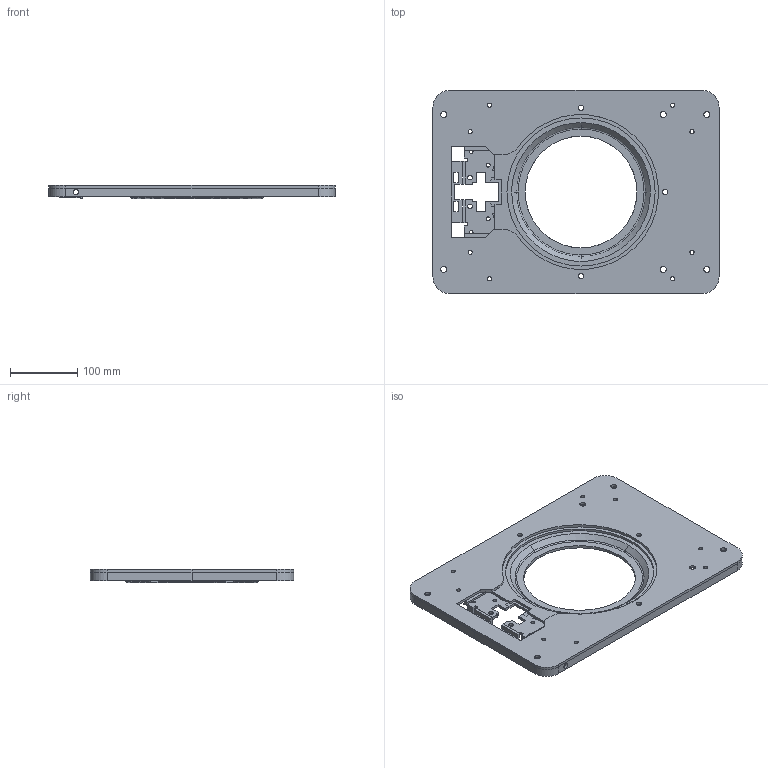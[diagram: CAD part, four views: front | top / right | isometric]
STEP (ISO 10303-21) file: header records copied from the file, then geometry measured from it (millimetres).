
FILE_DESCRIPTION(('CATIA V5 STEP Exchange'),'2;1');
FILE_NAME('D:\交接\张长江\21-Benz H6\光华荣昌转盘数据\H6 转盘\转盘用整椅数据 A9609109920\sample\H6 转盘夏季测试样件方案_20240617\样件数据\钣金件\SHT0017294-3 转盘上板.stp','2024-06-19T05:54:31+00:00',('none'),('none'),'CATIA Version 5 Release 20 GA (IN-10)','CATIA V5 STEP AP203 Edition 2','none');
FILE_SCHEMA(('AP203_CONFIGURATION_CONTROLLED_3D_DESIGN_OF_MECHANICAL_PARTS_AND_ASSEMBLIES_MIM_LF { 1 0 10303 403 2 1 2}'));
Length unit declared in the file: millimetre
Products named in the file (1): SHT0017294-3
Bounding box: 425 x 302 x 19.5 mm (x, y, z)
Volume: 630055.9 mm3; surface area: 361834.9 mm2
Topology: 14 solids, 14 shells, 345 faces, 932 edges, 616 vertices
Faces by surface type: plane 172, cylinder 153, bspline 20
Entity records: 11946 total; most frequent: CARTESIAN_POINT 3663, ORIENTED_EDGE 1864, DIRECTION 1290, EDGE_CURVE 932, VERTEX_POINT 616, VECTOR 538, LINE 538, AXIS2_PLACEMENT_3D 522
